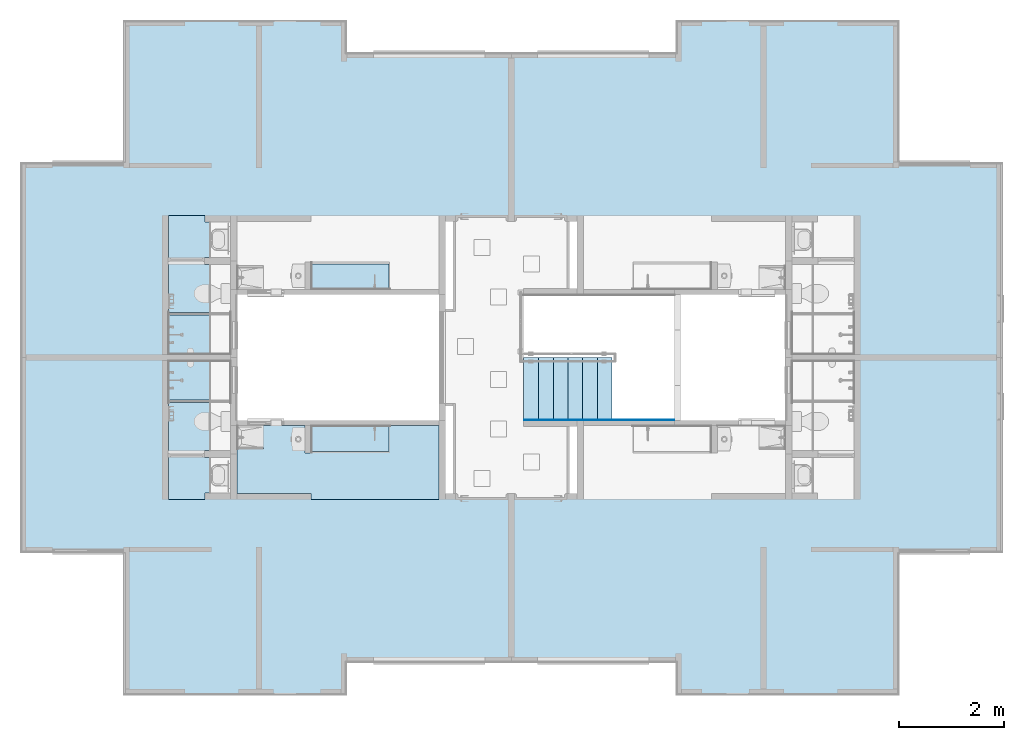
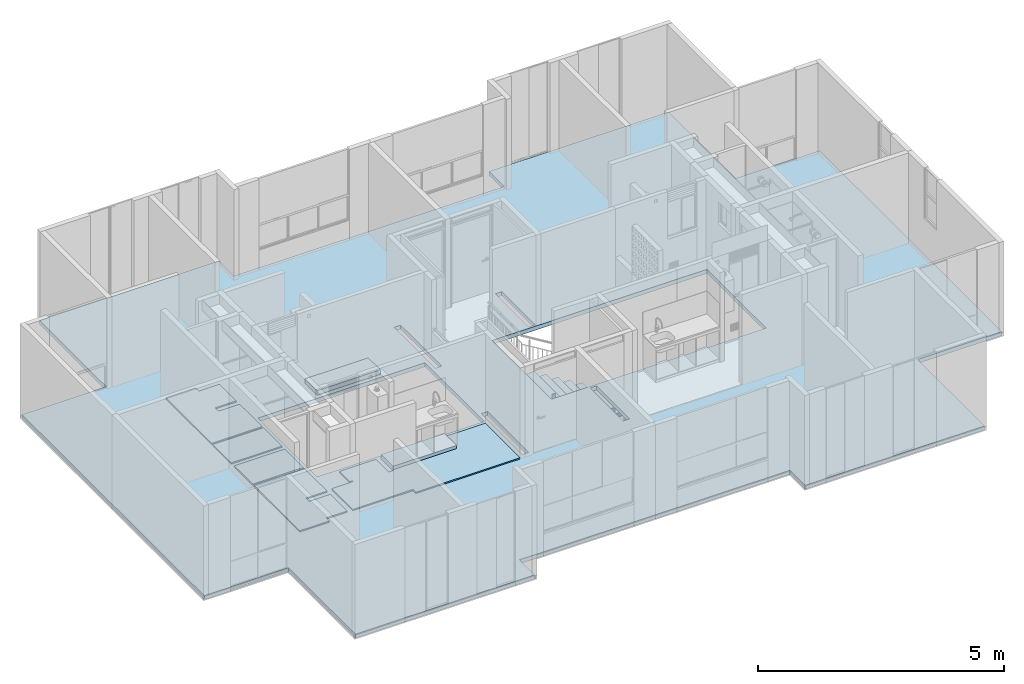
# One storey, part 1 of 47: 13 slabs.
"""IFC4 building model written with IfcOpenShell, lengths in metres."""

import ifcopenshell
import ifcopenshell.guid

model = None  # the IFC model being written
_history = None  # IfcOwnerHistory: only IFC2X3 demands one
_inside = {}  # id of a spatial element -> (the spatial element, [elements in it])
_under = {}  # id of a project, library or spatial element -> (it, [spatial elements below it])
_declared = {}  # id of a project -> (the project, [libraries it declares])
_typed = {}  # id of a type object -> (the type object, [elements of that type])
_made_of = {}  # id of a material, layer set ... -> (it, [elements and type objects made of it])


def new_model(schema):
    """Start an empty IFC model of exactly this schema.

    Asked for "IFC4X3", IfcOpenShell would pick the latest addendum, in which some entities
    have other attributes; the version numbers below select the first issue.
    IFC2X3 requires an IfcOwnerHistory on every rooted entity: one is made here for all.
    """
    global model, _history
    if schema == "IFC4X3":
        model = ifcopenshell.file(schema_version=(4, 3, 0, 0))
    else:
        model = ifcopenshell.file(schema=schema)
    _inside.clear()
    _under.clear()
    _declared.clear()
    _typed.clear()
    _made_of.clear()
    _history = None
    if model.schema == "IFC2X3":
        org = make("IfcOrganization", Name="unknown")
        user = make(
            "IfcPersonAndOrganization",
            ThePerson=make("IfcPerson", FamilyName="unknown"),
            TheOrganization=org,
        )
        app = make(
            "IfcApplication",
            ApplicationDeveloper=org,
            Version="unknown",
            ApplicationFullName="unknown",
            ApplicationIdentifier="unknown",
        )
        _history = make(
            "IfcOwnerHistory",
            OwningUser=user,
            OwningApplication=app,
            ChangeAction="ADDED",
            CreationDate=0,
        )
    return model


def make(cls, **values):
    """One entity of the class cls with the attributes given. An attribute that is None is left unset."""
    return model.create_entity(
        cls, **{name: value for name, value in values.items() if value is not None}
    )


def entity(cls, *values):
    """Any entity or typed value of the class cls, its attributes in the order of the schema. None: left unset."""
    e = model.create_entity(cls)
    for i, value in enumerate(values):
        if value is not None:
            e[i] = value
    return e


def rooted(cls, **values):
    """An entity with a GlobalId (a new one), such as an element, a storey or a relation."""
    return make(cls, GlobalId=ifcopenshell.guid.new(), OwnerHistory=_history, **values)


def si_unit(unit_type, name, prefix=None):
    """IfcSIUnit, for example si_unit("LENGTHUNIT", "METRE", prefix="MILLI")."""
    return make("IfcSIUnit", UnitType=unit_type, Prefix=prefix, Name=name)


def converted_unit(unit_type, name, factor, base, dimensions=None, offset=None):
    """IfcConversionBasedUnit, such as the inch: factor (a typed value) times the base unit."""
    return make(
        "IfcConversionBasedUnit"
        if offset is None
        else "IfcConversionBasedUnitWithOffset",
        ConversionOffset=offset,
        Dimensions=None
        if dimensions is None
        else entity("IfcDimensionalExponents", *dimensions),
        UnitType=unit_type,
        Name=name,
        ConversionFactor=make(
            "IfcMeasureWithUnit", ValueComponent=factor, UnitComponent=base
        ),
    )


def derived_unit(unit_type, elements):
    """IfcDerivedUnit: a product of units, each with its exponent."""
    return make(
        "IfcDerivedUnit",
        Elements=[
            make("IfcDerivedUnitElement", Unit=unit, Exponent=power)
            for unit, power in elements
        ],
        UnitType=unit_type,
    )


def assignment(units):
    """IfcUnitAssignment: the units of a project."""
    return None if units is None else make("IfcUnitAssignment", Units=units)


def point(xyz):
    """IfcCartesianPoint."""
    return None if xyz is None else make("IfcCartesianPoint", Coordinates=xyz)


def direction(xyz):
    """IfcDirection."""
    return None if xyz is None else make("IfcDirection", DirectionRatios=xyz)


def frame(location, z_axis=None, x_axis=None):
    """IfcAxis2Placement3D, a coordinate frame: its origin and axes. An axis left out is left unset."""
    return make(
        "IfcAxis2Placement3D",
        Location=point(location),
        Axis=direction(z_axis),
        RefDirection=direction(x_axis),
    )


def origin():
    """The frame at (0, 0, 0) with its axes left unset."""
    return frame((0.0, 0.0, 0.0))


def place(relative_to, where):
    """IfcLocalPlacement: puts the frame where relative to a parent placement (None: the world)."""
    return make(
        "IfcLocalPlacement", PlacementRelTo=relative_to, RelativePlacement=where
    )


def context(
    kind, dimensions, precision=None, world=None, true_north=None, identifier=None
):
    """IfcGeometricRepresentationContext, for example the 3D "Model" context."""
    return make(
        "IfcGeometricRepresentationContext",
        ContextIdentifier=identifier,
        ContextType=kind,
        CoordinateSpaceDimension=dimensions,
        Precision=precision,
        WorldCoordinateSystem=world,
        TrueNorth=true_north,
    )


def subcontext(parent, identifier, kind, view, scale=None):
    """IfcGeometricRepresentationSubContext, for example "Body" below "Model"."""
    return make(
        "IfcGeometricRepresentationSubContext",
        ContextIdentifier=identifier,
        ContextType=kind,
        ParentContext=parent,
        TargetScale=scale,
        TargetView=view,
    )


def project(units=None, contexts=None):
    """IfcProject with its units and contexts."""
    return rooted(
        "IfcProject",
        Name="project",
        RepresentationContexts=contexts,
        UnitsInContext=assignment(units),
    )


def spatial(cls, under=None, at=None, **own):
    """A site, building, storey or space (cls), placed at a placement, below another one or the project."""
    s = rooted(cls, ObjectPlacement=at, **own)
    if under is not None:
        _under.setdefault(under.id(), (under, []))[1].append(s)
    return s


def point_list(points):
    """IfcCartesianPointList2D or 3D."""
    cls = (
        "IfcCartesianPointList2D" if len(points[0]) == 2 else "IfcCartesianPointList3D"
    )
    return make(cls, CoordList=points)


def indexed_curve(points, segments=None, self_intersect=None):
    """IfcIndexedPolyCurve: lines and arcs through numbered points (the first is 1)."""
    return make(
        "IfcIndexedPolyCurve",
        Points=point_list(points),
        Segments=segments,
        SelfIntersect=self_intersect,
    )


def outline(outer, holes=None, kind="AREA"):
    """IfcArbitraryClosedProfileDef: a profile drawn as a closed curve; with holes, ...WithVoids."""
    if holes is None:
        return make("IfcArbitraryClosedProfileDef", ProfileType=kind, OuterCurve=outer)
    return make(
        "IfcArbitraryProfileDefWithVoids",
        ProfileType=kind,
        OuterCurve=outer,
        InnerCurves=holes,
    )


def extrude(swept, where, along, depth):
    """IfcExtrudedAreaSolid: the profile swept, set in the frame where, extruded along a direction by depth."""
    return make(
        "IfcExtrudedAreaSolid",
        SweptArea=swept,
        Position=where,
        ExtrudedDirection=direction(along),
        Depth=depth,
    )


def shape(context_of_items, identifier, shape_type, items):
    """IfcShapeRepresentation: the items that make up one representation, for example the "Body"."""
    return make(
        "IfcShapeRepresentation",
        ContextOfItems=context_of_items,
        RepresentationIdentifier=identifier,
        RepresentationType=shape_type,
        Items=items,
    )


def material(Name=None, Category=None):
    """IfcMaterial."""
    return make("IfcMaterial", Name=Name, Category=Category)


def constituent(of_material, Name=None, Category=None, fraction=None):
    """IfcMaterialConstituent: one of the materials an element consists of."""
    return make(
        "IfcMaterialConstituent",
        Name=Name,
        Material=of_material,
        Fraction=fraction,
        Category=Category,
    )


def constituent_set(constituents=None, Name=None):
    """IfcMaterialConstituentSet."""
    return make(
        "IfcMaterialConstituentSet", Name=Name, MaterialConstituents=constituents
    )


def made_of(thing, what):
    """Note that an element or type object is made of a material, layer set ...; save() writes the relation."""
    if what is not None:
        _made_of.setdefault(what.id(), (what, []))[1].append(thing)
    return thing


def type_object(cls, material=None, **own):
    """A type object (cls), such as IfcWallType, which elements share."""
    return made_of(rooted(cls, **own), material)


def element(
    cls,
    number,
    at=None,
    inside=None,
    cuts=None,
    type_object=None,
    material=None,
    context=None,
    identifier="Body",
    shape_type=None,
    held_by="IfcProductDefinitionShape",
    body=None,
    shapes=None,
    **own,
):
    """One element of the class cls, such as IfcWall. Its Tag is "e" and its number.

    at: its placement. inside: the storey or other place that contains it. cuts: it is an
    opening in that element (IfcRelVoidsElement). A single representation is given by context,
    identifier, shape_type and body (its items); several are given by shapes. held_by: the class
    of the entity that holds the representations. save() writes the other relations.
    """
    e = rooted(cls, Tag="e%d" % number, ObjectPlacement=at, **own)
    if body is not None:
        shapes = [shape(context, identifier, shape_type, body)]
    if shapes is not None:
        e.Representation = make(held_by, Representations=shapes)
    if inside is not None:
        _inside.setdefault(inside.id(), (inside, []))[1].append(e)
    if cuts is not None:
        rooted(
            "IfcRelVoidsElement", RelatingBuildingElement=cuts, RelatedOpeningElement=e
        )
    if type_object is not None:
        _typed.setdefault(type_object.id(), (type_object, []))[1].append(e)
    return made_of(e, material)


def aggregate(whole, parts):
    """IfcRelAggregates: a whole, such as a stair, and the parts it consists of."""
    return rooted("IfcRelAggregates", RelatingObject=whole, RelatedObjects=parts)


def save(model, path):
    """Write the relations noted so far, then the file.

    IfcRelAggregates (storeys below a building ...), IfcRelContainedInSpatialStructure (elements
    in a storey), IfcRelDefinesByType, IfcRelAssociatesMaterial and IfcRelDeclares: one each for
    every whole, place, type object, material and project.
    """
    for whole, parts in _under.values():
        aggregate(whole, parts)
    for where, things in _inside.values():
        rooted(
            "IfcRelContainedInSpatialStructure",
            RelatedElements=things,
            RelatingStructure=where,
        )
    for kind, things in _typed.values():
        rooted("IfcRelDefinesByType", RelatedObjects=things, RelatingType=kind)
    for what, things in _made_of.values():
        rooted("IfcRelAssociatesMaterial", RelatedObjects=things, RelatingMaterial=what)
    for by, libraries in _declared.values():
        rooted("IfcRelDeclares", RelatingContext=by, RelatedDefinitions=libraries)
    model.write(path)


model = new_model("IFC4")

# Units and contexts
model_context = context("Model", 3, precision=1e-05, world=origin(), true_north=direction((6.123031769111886e-17, 1.0)))
body_context = subcontext(model_context, "Body", "Model", "MODEL_VIEW")
ifc_project = project(units=[si_unit("LENGTHUNIT", "METRE"), si_unit("AREAUNIT", "SQUARE_METRE"), si_unit("VOLUMEUNIT", "CUBIC_METRE"), converted_unit("PLANEANGLEUNIT", "DEGREE", entity("IfcRatioMeasure", 0.017453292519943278), si_unit("PLANEANGLEUNIT", "RADIAN"), dimensions=[0, 0, 0, 0, 0, 0, 0]), si_unit("MASSUNIT", "GRAM", prefix="KILO"), derived_unit("MASSDENSITYUNIT", [(si_unit("MASSUNIT", "GRAM", prefix="KILO"), 1), (si_unit("LENGTHUNIT", "METRE"), -3)]), derived_unit("IONCONCENTRATIONUNIT", [(si_unit("MASSUNIT", "GRAM", prefix="KILO"), 1), (si_unit("LENGTHUNIT", "METRE"), -3)]), derived_unit("MOMENTOFINERTIAUNIT", [(si_unit("LENGTHUNIT", "METRE"), 4)]), si_unit("TIMEUNIT", "SECOND"), si_unit("FREQUENCYUNIT", "HERTZ"), si_unit("THERMODYNAMICTEMPERATUREUNIT", "DEGREE_CELSIUS"), derived_unit("THERMALTRANSMITTANCEUNIT", [(si_unit("MASSUNIT", "GRAM", prefix="KILO"), 1), (si_unit("THERMODYNAMICTEMPERATUREUNIT", "KELVIN"), -1), (si_unit("TIMEUNIT", "SECOND"), -3)]), derived_unit("THERMALCONDUCTANCEUNIT", [(si_unit("MASSUNIT", "GRAM", prefix="KILO"), 1), (si_unit("THERMODYNAMICTEMPERATUREUNIT", "KELVIN"), -1), (si_unit("TIMEUNIT", "SECOND"), -3), (si_unit("LENGTHUNIT", "METRE"), 1)]), derived_unit("VOLUMETRICFLOWRATEUNIT", [(si_unit("LENGTHUNIT", "METRE"), 3), (si_unit("TIMEUNIT", "SECOND"), -1)]), derived_unit("MASSFLOWRATEUNIT", [(si_unit("MASSUNIT", "GRAM", prefix="KILO"), 1), (si_unit("TIMEUNIT", "SECOND"), -1)]), derived_unit("ROTATIONALFREQUENCYUNIT", [(si_unit("TIMEUNIT", "SECOND"), -1)]), si_unit("ELECTRICCURRENTUNIT", "AMPERE"), si_unit("ELECTRICVOLTAGEUNIT", "VOLT"), si_unit("POWERUNIT", "WATT"), si_unit("FORCEUNIT", "NEWTON", prefix="KILO"), si_unit("ILLUMINANCEUNIT", "LUX"), si_unit("LUMINOUSFLUXUNIT", "LUMEN"), si_unit("LUMINOUSINTENSITYUNIT", "CANDELA"), derived_unit("USERDEFINED", [(si_unit("MASSUNIT", "GRAM", prefix="KILO"), -1), (si_unit("LENGTHUNIT", "METRE"), -2), (si_unit("TIMEUNIT", "SECOND"), 3), (si_unit("LUMINOUSFLUXUNIT", "LUMEN"), 1)]), derived_unit("USERDEFINED", [(si_unit("MASSUNIT", "GRAM", prefix="KILO"), 1), (si_unit("TIMEUNIT", "SECOND"), -3), (si_unit("LENGTHUNIT", "METRE"), 3), (si_unit("ELECTRICCURRENTUNIT", "AMPERE"), -2)]), derived_unit("SOUNDPOWERUNIT", [(si_unit("MASSUNIT", "GRAM", prefix="KILO"), 1), (si_unit("TIMEUNIT", "SECOND"), -3), (si_unit("LENGTHUNIT", "METRE"), 2)]), derived_unit("SOUNDPRESSUREUNIT", [(si_unit("MASSUNIT", "GRAM", prefix="KILO"), 1), (si_unit("LENGTHUNIT", "METRE"), -1), (si_unit("TIMEUNIT", "SECOND"), -2)]), derived_unit("LINEARVELOCITYUNIT", [(si_unit("LENGTHUNIT", "METRE"), 1), (si_unit("TIMEUNIT", "SECOND"), -1)]), si_unit("PRESSUREUNIT", "PASCAL"), derived_unit("USERDEFINED", [(si_unit("MASSUNIT", "GRAM", prefix="KILO"), 1), (si_unit("LENGTHUNIT", "METRE"), -2), (si_unit("TIMEUNIT", "SECOND"), -2)]), derived_unit("LINEARFORCEUNIT", [(si_unit("MASSUNIT", "GRAM", prefix="KILO"), 1), (si_unit("TIMEUNIT", "SECOND"), -2)]), derived_unit("PLANARFORCEUNIT", [(si_unit("MASSUNIT", "GRAM", prefix="KILO"), 1), (si_unit("LENGTHUNIT", "METRE"), -1), (si_unit("TIMEUNIT", "SECOND"), -2)]), derived_unit("SPECIFICHEATCAPACITYUNIT", [(si_unit("THERMODYNAMICTEMPERATUREUNIT", "KELVIN"), -1), (si_unit("LENGTHUNIT", "METRE"), 2), (si_unit("TIMEUNIT", "SECOND"), -2)]), derived_unit("HEATINGVALUEUNIT", [(si_unit("LENGTHUNIT", "METRE"), 2), (si_unit("TIMEUNIT", "SECOND"), -2)]), derived_unit("VAPORPERMEABILITYUNIT", [(si_unit("LENGTHUNIT", "METRE"), -1), (si_unit("TIMEUNIT", "SECOND"), 1)]), derived_unit("DYNAMICVISCOSITYUNIT", [(si_unit("MASSUNIT", "GRAM", prefix="KILO"), 1), (si_unit("TIMEUNIT", "SECOND"), -1), (si_unit("LENGTHUNIT", "METRE"), -1)]), derived_unit("THERMALEXPANSIONCOEFFICIENTUNIT", [(si_unit("THERMODYNAMICTEMPERATUREUNIT", "KELVIN"), -1)]), derived_unit("MODULUSOFELASTICITYUNIT", [(si_unit("MASSUNIT", "GRAM", prefix="KILO"), 1), (si_unit("LENGTHUNIT", "METRE"), -1), (si_unit("TIMEUNIT", "SECOND"), -2)]), derived_unit("ISOTHERMALMOISTURECAPACITYUNIT", [(si_unit("LENGTHUNIT", "METRE"), 3), (si_unit("MASSUNIT", "GRAM", prefix="KILO"), -1)]), derived_unit("MOISTUREDIFFUSIVITYUNIT", [(si_unit("TIMEUNIT", "SECOND"), -1), (si_unit("LENGTHUNIT", "METRE"), 2)])], contexts=[model_context])

# Site, building, storey
site_placement = place(None, origin())
site = spatial("IfcSite", under=ifc_project, at=site_placement, Name="Default", CompositionType="ELEMENT")
building_placement = place(site_placement, origin())
building = spatial("IfcBuilding", under=site, at=building_placement, CompositionType="ELEMENT")
storey_placement = place(building_placement, frame((0.0, 0.0, 11.750000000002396)))
storey = spatial("IfcBuildingStorey", under=building, at=storey_placement, Name="Nivel 6", CompositionType="ELEMENT", Elevation=11.750000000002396)

# Slabs
ifc_material_1 = material(Name="Ceramica 0.45m x 0.45m gris", Category="Materials")
ifc_constituent_1 = constituent(ifc_material_1, Name="Ceramica 0.45m x 0.45m gris", Category="Materials")
ifc_material_2 = material(Name="Mortero de pega", Category="Materials")
ifc_constituent_2 = constituent(ifc_material_2, Name="Mortero de pega", Category="Materials")
ifc_constituent_set_1 = constituent_set(constituents=[ifc_constituent_1, ifc_constituent_2], Name="Floor:C2030.20 - 0.45 x 0.45 - Enchape cerámico - Mortero de Pega + Cerámica gris")
slab_type_1 = type_object("IfcSlabType", Name="Floor:C2030.20 - 0.45 x 0.45 - Enchape cerámico - Mortero de Pega + Cerámica gris", PredefinedType="FLOOR", material=ifc_constituent_set_1)
slab_1_placement = place(storey_placement, origin())
element("IfcSlab", 1, at=slab_1_placement, inside=storey, type_object=slab_type_1, material=ifc_constituent_set_1, Name="Floor:C2030.20 - 0.45 x 0.45 - Enchape cerámico - Mortero de Pega + Cerámica gris", ObjectType="Floor:C2030.20 - 0.45 x 0.45 - Enchape cerámico - Mortero de Pega + Cerámica gris", PredefinedType="FLOOR", context=body_context, shape_type="SweptSolid", body=[
    extrude(outline(indexed_curve([(-0.592499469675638, -0.3749999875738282), (0.5924994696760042, -0.3749999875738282), (0.5924994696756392, 0.3749999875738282), (-0.5924994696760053, 0.3749999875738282), (-0.592499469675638, -0.3749999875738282)], self_intersect=False)), frame((3.3700005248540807, -5.990000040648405, 0.019999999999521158), z_axis=(0.0, 0.0, 1.0), x_axis=(-1.0, 0.0, 0.0)), (0.0, 0.0, 1.0), 0.009999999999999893),
    extrude(outline(indexed_curve([(-0.1950000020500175, -0.06099936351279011), (-0.19500000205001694, 0.4339995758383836), (-1.109999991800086, 0.43399957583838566), (-1.109999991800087, -0.7509993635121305), (0.7449999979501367, -0.750999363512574), (0.7449999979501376, -0.05600042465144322), (0.6199999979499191, -0.05600042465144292), (0.619999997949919, 0.4339995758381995), (-0.060000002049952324, 0.4339995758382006), (-0.060000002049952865, -0.06099936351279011), (-0.1950000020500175, -0.06099936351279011)], self_intersect=False)), frame((3.5285004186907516, -4.455000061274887, 0.019999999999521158), z_axis=(0.0, 0.0, -1.0), x_axis=(0.0, 1.0, 0.0)), (0.0, 0.0, -1.0), 0.009999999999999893),
    extrude(outline(indexed_curve([(-0.7509993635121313, -1.1099999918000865), (0.4339995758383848, -1.1099999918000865), (0.4339995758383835, -0.19500000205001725), (-0.06099936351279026, -0.1950000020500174), (-0.06099936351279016, -0.06000000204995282), (0.4339995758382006, -0.06000000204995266), (0.4339995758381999, 0.6199999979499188), (-0.05600042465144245, 0.6199999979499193), (-0.05600042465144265, 0.7449999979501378), (-0.750999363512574, 0.7449999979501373), (-0.7509993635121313, -1.1099999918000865)], self_intersect=False)), frame((3.5285004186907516, -4.455000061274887, 0.0)), (0.0, 0.0, 1.0), 0.019999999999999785),
    extrude(outline(indexed_curve([(-0.37499998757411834, -0.5924994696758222), (0.37499998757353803, -0.5924994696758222), (0.37499998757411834, 0.59249946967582), (-0.37499998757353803, 0.5924994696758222), (-0.37499998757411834, -0.5924994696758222)], self_intersect=False)), frame((3.37000052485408, -5.990000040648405, 0.0), z_axis=(0.0, 0.0, 1.0), x_axis=(0.0, 1.0, 0.0)), (0.0, 0.0, 1.0), 0.019999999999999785),
])
slab_2_placement = place(storey_placement, origin())
element("IfcSlab", 2, at=slab_2_placement, inside=storey, type_object=slab_type_1, material=ifc_constituent_set_1, Name="Floor:C2030.20 - 0.45 x 0.45 - Enchape cerámico - Mortero de Pega + Cerámica gris", ObjectType="Floor:C2030.20 - 0.45 x 0.45 - Enchape cerámico - Mortero de Pega + Cerámica gris", PredefinedType="FLOOR", context=body_context, shape_type="SweptSolid", body=[
    extrude(outline(indexed_curve([(-0.5924994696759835, -0.3749999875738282), (0.5924994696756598, -0.3749999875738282), (0.592499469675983, 0.3749999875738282), (-0.5924994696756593, 0.3749999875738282), (-0.5924994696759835, -0.3749999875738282)], self_intersect=False)), frame((3.3700005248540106, -6.860000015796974, 0.019999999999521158), z_axis=(0.0, 0.0, 1.0), x_axis=(-1.0, 0.0, 0.0)), (0.0, 0.0, 1.0), 0.009999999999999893),
    extrude(outline(indexed_curve([(0.19500000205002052, -0.4339995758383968), (1.1099999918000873, -0.4339995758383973), (1.109999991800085, 0.7509993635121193), (-0.7449999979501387, 0.750999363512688), (-0.7449999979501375, 0.05600042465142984), (-0.619999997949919, 0.05600042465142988), (-0.6199999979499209, -0.43399957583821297), (0.0600000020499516, -0.4339995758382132), (0.060000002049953, 0.060999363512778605), (0.19500000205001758, 0.06099936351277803), (0.19500000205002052, -0.4339995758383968)], self_intersect=False)), frame((3.528500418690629, -8.394999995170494, 0.019999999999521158), z_axis=(0.0, 0.0, 1.0), x_axis=(0.0, 1.0, 0.0)), (0.0, 0.0, 1.0), 0.009999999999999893),
    extrude(outline(indexed_curve([(-1.1099999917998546, -0.7509993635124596), (0.744999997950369, -0.7509993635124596), (0.7449999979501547, -0.05600042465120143), (0.6199999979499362, -0.056000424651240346), (0.6199999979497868, 0.4339995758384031), (-0.060000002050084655, 0.4339995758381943), (-0.06000000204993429, -0.06099936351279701), (-0.19500000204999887, -0.060999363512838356), (-0.19500000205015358, 0.43399957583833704), (-1.1099999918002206, 0.43399957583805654), (-1.1099999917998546, -0.7509993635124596)], self_intersect=False)), frame((3.528500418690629, -8.394999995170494, 0.0), z_axis=(0.0, 0.0, 1.0), x_axis=(0.0, -1.0, 0.0)), (0.0, 0.0, 1.0), 0.019999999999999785),
    extrude(outline(indexed_curve([(-0.5924994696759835, -0.3749999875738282), (0.5924994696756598, -0.3749999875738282), (0.5924994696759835, 0.3749999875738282), (-0.5924994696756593, 0.3749999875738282), (-0.5924994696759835, -0.3749999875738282)], self_intersect=False)), frame((3.3700005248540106, -6.860000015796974, 0.0), z_axis=(0.0, 0.0, 1.0), x_axis=(-1.0, 0.0, 0.0)), (0.0, 0.0, 1.0), 0.019999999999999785),
])
slab_3_placement = place(storey_placement, origin())
element("IfcSlab", 3, at=slab_3_placement, inside=storey, type_object=slab_type_1, material=ifc_constituent_set_1, Name="Floor:C2030.20 - 0.45 x 0.45 - Enchape cerámico - Mortero de Pega + Cerámica gris", ObjectType="Floor:C2030.20 - 0.45 x 0.45 - Enchape cerámico - Mortero de Pega + Cerámica gris", PredefinedType="FLOOR", context=body_context, shape_type="SweptSolid", body=[
    extrude(outline(indexed_curve([(-0.06375012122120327, -0.8409999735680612), (2.381249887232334, -0.8409999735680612), (2.3812498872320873, 0.5734999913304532), (1.4212498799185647, 0.5734999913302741), (1.4212498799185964, 0.083999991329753), (-0.06375012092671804, 0.08399999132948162), (-0.06375012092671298, 0.05399999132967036), (-0.17875012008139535, 0.053999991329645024), (-0.1787501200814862, 0.573499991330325), (-1.038749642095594, 0.5734999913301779), (-1.0387496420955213, 0.1579999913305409), (-0.9787496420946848, 0.15799999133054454), (-0.9787496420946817, 0.12399999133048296), (-1.4787501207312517, 0.12399999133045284), (-1.4787501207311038, -0.7259999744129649), (-0.06375012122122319, -0.725999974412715), (-0.06375012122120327, -0.8409999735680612)], self_intersect=False)), frame((5.566250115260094, -8.299000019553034, 0.019999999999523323)), (0.0, 0.0, 1.0), 0.009999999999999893),
    extrude(outline(indexed_curve([(-0.06375012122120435, -0.8409999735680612), (2.381249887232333, -0.8409999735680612), (2.3812498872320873, 0.5734999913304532), (1.4212498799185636, 0.5734999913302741), (1.4212498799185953, 0.083999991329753), (-0.06375012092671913, 0.08399999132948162), (-0.06375012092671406, 0.05399999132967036), (-0.17875012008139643, 0.053999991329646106), (-0.17875012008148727, 0.573499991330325), (-1.038749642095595, 0.5734999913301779), (-1.038749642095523, 0.1579999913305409), (-0.978749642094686, 0.15799999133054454), (-0.9787496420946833, 0.12399999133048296), (-1.4787501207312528, 0.12399999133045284), (-1.478750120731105, -0.7259999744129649), (-0.06375012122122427, -0.725999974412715), (-0.06375012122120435, -0.8409999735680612)], self_intersect=False)), frame((5.566250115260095, -8.299000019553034, 0.0)), (0.0, 0.0, 1.0), 0.019999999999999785),
])
ifc_material_3 = material(Name="Concreto (Aire)", Category="Materials")
slab_type_2 = type_object("IfcSlabType", Name="Floor:B1010 - 0.10m - Placa Entrepiso - Concreto", PredefinedType="FLOOR", material=ifc_material_3)
slab_4_placement = place(storey_placement, origin())
element("IfcSlab", 4, at=slab_4_placement, inside=storey, type_object=slab_type_2, material=ifc_material_3, Name="Floor:B1010 - 0.10m - Placa Entrepiso - Concreto", ObjectType="Floor:B1010 - 0.10m - Placa Entrepiso - Concreto", PredefinedType="FLOOR", context=body_context, shape_type="SweptSolid", body=[
    extrude(outline(indexed_curve([(-7.375000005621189, -6.415000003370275), (-3.170000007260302, -6.415000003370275), (-3.170000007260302, -5.8000000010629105), (3.1700000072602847, -5.8000000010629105), (3.1700000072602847, -6.415000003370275), (7.3750000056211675, -6.415000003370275), (7.3750000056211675, -3.6999999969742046), (9.350000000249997, -3.699999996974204), (9.350000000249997, 3.6999999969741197), (7.375000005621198, 3.6999999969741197), (7.375000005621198, 6.415000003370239), (3.1700000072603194, 6.415000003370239), (3.1700000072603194, 5.800000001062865), (-3.170000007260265, 5.800000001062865), (-3.170000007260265, 6.415000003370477), (-7.375000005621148, 6.415000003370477), (-7.375000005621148, 3.6999999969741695), (-9.350000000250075, 3.6999999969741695), (-9.350000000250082, -3.6999999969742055), (-7.375000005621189, -3.6999999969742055), (-7.375000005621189, -6.415000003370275)], self_intersect=False), holes=[indexed_curve([(-5.2650000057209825, -1.2000000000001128), (-5.2650000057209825, 1.199999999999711), (-3.1555462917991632, 1.199999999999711), (-0.23000000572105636, 1.1999999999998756), (-0.23000000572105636, -1.2000000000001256), (-3.308647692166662, -1.2000000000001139), (-5.2650000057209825, -1.2000000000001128)], self_intersect=False), indexed_curve([(5.265000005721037, -1.2000000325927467), (1.3449999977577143, -1.2000000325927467), (1.3449999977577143, 1.2000000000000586), (5.265000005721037, 1.2000000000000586), (5.265000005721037, -1.2000000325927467)], self_intersect=False), indexed_curve([(-1.2599999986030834, -2.5999999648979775), (-1.2599999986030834, -1.250000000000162), (-1.1099999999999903, -1.250000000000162), (-1.1099999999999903, -2.5999999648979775), (-1.2599999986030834, -2.5999999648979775)], self_intersect=False), indexed_curve([(-1.2599999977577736, 1.2500000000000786), (-1.2599999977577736, 2.599999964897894), (-1.1099999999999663, 2.599999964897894), (-1.1099999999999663, 1.2500000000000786), (-1.2599999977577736, 1.2500000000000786)], self_intersect=False), indexed_curve([(1.2599999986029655, 0.9299999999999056), (1.1100000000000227, 0.9299999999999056), (1.1100000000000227, 2.5999999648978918), (1.2599999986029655, 2.5999999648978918), (1.2599999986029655, 0.9299999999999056)], self_intersect=False), indexed_curve([(1.110000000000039, -2.5999999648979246), (1.110000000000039, -0.9299999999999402), (1.2599999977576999, -0.9299999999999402), (1.2599999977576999, -2.5999999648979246), (1.110000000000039, -2.5999999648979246)], self_intersect=False)]), frame((9.322500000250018, -6.425000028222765, -0.09999999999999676), z_axis=(0.0, 0.0, 1.0), x_axis=(-1.0, 0.0, 0.0)), (0.0, 0.0, 1.0), 0.09999999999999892),
])
ifc_material_4 = material(Name="escalgres", Category="Materials")
ifc_constituent_3 = constituent(ifc_material_4, Name="escalgres", Category="Materials")
ifc_constituent_4 = constituent(ifc_material_2, Name="Mortero de pega", Category="Materials")
ifc_constituent_set_2 = constituent_set(constituents=[ifc_constituent_3, ifc_constituent_4], Name="Floor:C2030.20 -30x30- Escalgres - Gres")
slab_type_3 = type_object("IfcSlabType", Name="Floor:C2030.20 -30x30- Escalgres - Gres", PredefinedType="FLOOR", material=ifc_constituent_set_2)
slab_5_placement = place(storey_placement, origin())
element("IfcSlab", 5, at=slab_5_placement, inside=storey, type_object=slab_type_3, material=ifc_constituent_set_2, Name="Floor:C2030.20 -30x30- Escalgres - Gres", ObjectType="Floor:C2030.20 -30x30- Escalgres - Gres", PredefinedType="FLOOR", context=body_context, shape_type="SweptSolid", body=[
    extrude(outline(indexed_curve([(-0.1475000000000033, -0.6000000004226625), (0.14750000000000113, -0.6000000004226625), (0.14750000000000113, 0.6000000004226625), (-0.1475000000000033, 0.6000000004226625), (-0.1475000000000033, -0.6000000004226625)], self_intersect=False)), frame((11.10000000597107, -7.025000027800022, -0.9871428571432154)), (0.0, 0.0, 1.0), 0.009999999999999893),
    extrude(outline(indexed_curve([(-0.6000000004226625, -0.1475000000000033), (0.6000000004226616, -0.1475000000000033), (0.6000000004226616, 0.14750000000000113), (-0.6000000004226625, 0.14750000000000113), (-0.6000000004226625, -0.1475000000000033)], self_intersect=False)), frame((11.10000000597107, -7.025000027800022, -1.007142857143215), z_axis=(0.0, 0.0, 1.0), x_axis=(0.0, -1.0, 0.0)), (0.0, 0.0, 1.0), 0.019999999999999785),
])
slab_6_placement = place(storey_placement, origin())
element("IfcSlab", 6, at=slab_6_placement, inside=storey, type_object=slab_type_3, material=ifc_constituent_set_2, Name="Floor:C2030.20 -30x30- Escalgres - Gres", ObjectType="Floor:C2030.20 -30x30- Escalgres - Gres", PredefinedType="FLOOR", context=body_context, shape_type="SweptSolid", body=[
    extrude(outline(indexed_curve([(-0.1475000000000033, -0.6000000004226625), (0.14750000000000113, -0.6000000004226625), (0.14750000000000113, 0.6000000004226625), (-0.1475000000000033, 0.6000000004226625), (-0.1475000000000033, -0.6000000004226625)], self_intersect=False)), frame((10.820000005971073, -7.025000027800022, -0.8192857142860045)), (0.0, 0.0, 1.0), 0.009999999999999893),
    extrude(outline(indexed_curve([(-0.6000000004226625, -0.1475000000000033), (0.6000000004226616, -0.1475000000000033), (0.6000000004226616, 0.14750000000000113), (-0.6000000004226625, 0.14750000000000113), (-0.6000000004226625, -0.1475000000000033)], self_intersect=False)), frame((10.820000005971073, -7.025000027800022, -0.8392857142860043), z_axis=(0.0, 0.0, 1.0), x_axis=(0.0, -1.0, 0.0)), (0.0, 0.0, 1.0), 0.019999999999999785),
])
slab_7_placement = place(storey_placement, origin())
element("IfcSlab", 7, at=slab_7_placement, inside=storey, type_object=slab_type_3, material=ifc_constituent_set_2, Name="Floor:C2030.20 -30x30- Escalgres - Gres", ObjectType="Floor:C2030.20 -30x30- Escalgres - Gres", PredefinedType="FLOOR", context=body_context, shape_type="SweptSolid", body=[
    extrude(outline(indexed_curve([(-0.1475000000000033, -0.6000000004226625), (0.14750000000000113, -0.6000000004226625), (0.14750000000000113, 0.6000000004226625), (-0.1475000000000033, 0.6000000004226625), (-0.1475000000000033, -0.6000000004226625)], self_intersect=False)), frame((10.540000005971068, -7.025000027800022, -0.6514285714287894)), (0.0, 0.0, 1.0), 0.009999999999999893),
    extrude(outline(indexed_curve([(-0.6000000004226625, -0.1475000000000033), (0.6000000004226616, -0.1475000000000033), (0.6000000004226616, 0.14750000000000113), (-0.6000000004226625, 0.14750000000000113), (-0.6000000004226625, -0.1475000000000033)], self_intersect=False)), frame((10.540000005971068, -7.025000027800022, -0.6714285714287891), z_axis=(0.0, 0.0, 1.0), x_axis=(0.0, -1.0, 0.0)), (0.0, 0.0, 1.0), 0.019999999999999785),
])
slab_8_placement = place(storey_placement, origin())
element("IfcSlab", 8, at=slab_8_placement, inside=storey, type_object=slab_type_3, material=ifc_constituent_set_2, Name="Floor:C2030.20 -30x30- Escalgres - Gres", ObjectType="Floor:C2030.20 -30x30- Escalgres - Gres", PredefinedType="FLOOR", context=body_context, shape_type="SweptSolid", body=[
    extrude(outline(indexed_curve([(-0.1475000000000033, -0.6000000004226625), (0.14750000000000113, -0.6000000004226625), (0.14750000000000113, 0.6000000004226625), (-0.1475000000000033, 0.6000000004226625), (-0.1475000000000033, -0.6000000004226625)], self_intersect=False)), frame((10.26000000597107, -7.025000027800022, -0.48357142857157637)), (0.0, 0.0, 1.0), 0.009999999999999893),
    extrude(outline(indexed_curve([(-0.6000000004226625, -0.1475000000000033), (0.6000000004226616, -0.1475000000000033), (0.6000000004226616, 0.14750000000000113), (-0.6000000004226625, 0.14750000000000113), (-0.6000000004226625, -0.1475000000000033)], self_intersect=False)), frame((10.26000000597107, -7.025000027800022, -0.5035714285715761), z_axis=(0.0, 0.0, 1.0), x_axis=(0.0, -1.0, 0.0)), (0.0, 0.0, 1.0), 0.019999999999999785),
])
slab_9_placement = place(storey_placement, origin())
element("IfcSlab", 9, at=slab_9_placement, inside=storey, type_object=slab_type_3, material=ifc_constituent_set_2, Name="Floor:C2030.20 -30x30- Escalgres - Gres", ObjectType="Floor:C2030.20 -30x30- Escalgres - Gres", PredefinedType="FLOOR", context=body_context, shape_type="SweptSolid", body=[
    extrude(outline(indexed_curve([(-0.1475000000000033, -0.6000000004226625), (0.14750000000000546, -0.6000000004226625), (0.14750000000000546, 0.6000000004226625), (-0.1475000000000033, 0.6000000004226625), (-0.1475000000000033, -0.6000000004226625)], self_intersect=False)), frame((9.98000000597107, -7.025000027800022, -0.3157142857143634)), (0.0, 0.0, 1.0), 0.009999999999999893),
    extrude(outline(indexed_curve([(-0.6000000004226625, -0.1475000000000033), (0.6000000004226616, -0.1475000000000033), (0.6000000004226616, 0.14750000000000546), (-0.6000000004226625, 0.14750000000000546), (-0.6000000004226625, -0.1475000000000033)], self_intersect=False)), frame((9.98000000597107, -7.025000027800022, -0.3357142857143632), z_axis=(0.0, 0.0, 1.0), x_axis=(0.0, -1.0, 0.0)), (0.0, 0.0, 1.0), 0.019999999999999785),
])
slab_10_placement = place(storey_placement, origin())
element("IfcSlab", 10, at=slab_10_placement, inside=storey, type_object=slab_type_3, material=ifc_constituent_set_2, Name="Floor:C2030.20 -30x30- Escalgres - Gres", ObjectType="Floor:C2030.20 -30x30- Escalgres - Gres", PredefinedType="FLOOR", context=body_context, shape_type="SweptSolid", body=[
    extrude(outline(indexed_curve([(-0.1475000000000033, -0.6000000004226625), (0.1475000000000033, -0.6000000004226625), (0.1475000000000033, 0.6000000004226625), (-0.1475000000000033, 0.6000000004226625), (-0.1475000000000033, -0.6000000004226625)], self_intersect=False)), frame((9.70000000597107, -7.025000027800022, -0.14785714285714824)), (0.0, 0.0, 1.0), 0.009999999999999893),
    extrude(outline(indexed_curve([(-0.6000000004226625, -0.1475000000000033), (0.6000000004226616, -0.1475000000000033), (0.6000000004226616, 0.1475000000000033), (-0.6000000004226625, 0.1475000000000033), (-0.6000000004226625, -0.1475000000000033)], self_intersect=False)), frame((9.70000000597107, -7.025000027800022, -0.167857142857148), z_axis=(0.0, 0.0, 1.0), x_axis=(0.0, -1.0, 0.0)), (0.0, 0.0, 1.0), 0.019999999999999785),
])
slab_type_4 = type_object("IfcSlabType", Name="Floor:B1010 - 0.10m - Poyo - Concreto", PredefinedType="FLOOR", material=ifc_material_3)
slab_11_placement = place(storey_placement, origin())
element("IfcSlab", 11, at=slab_11_placement, inside=storey, type_object=slab_type_4, material=ifc_material_3, Name="Floor:B1010 - 0.10m - Poyo - Concreto", ObjectType="Floor:B1010 - 0.10m - Poyo - Concreto", PredefinedType="FLOOR", context=body_context, shape_type="SweptSolid", body=[
    extrude(outline(indexed_curve([(-0.24475000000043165, -0.7425000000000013), (0.2447500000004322, -0.7425000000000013), (0.2447500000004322, 0.7425000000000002), (-0.24475000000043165, 0.7425000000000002), (-0.24475000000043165, -0.7425000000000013)], self_intersect=False)), frame((6.2449999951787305, -4.879750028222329, 0.10999999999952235), z_axis=(0.0, 0.0, -1.0), x_axis=(0.0, 1.0, 0.0)), (0.0, 0.0, 1.0), 0.11000000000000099),
])
slab_12_placement = place(storey_placement, origin())
element("IfcSlab", 12, at=slab_12_placement, inside=storey, type_object=slab_type_4, material=ifc_material_3, Name="Floor:B1010 - 0.10m - Poyo - Concreto", ObjectType="Floor:B1010 - 0.10m - Poyo - Concreto", PredefinedType="FLOOR", context=body_context, shape_type="SweptSolid", body=[
    extrude(outline(indexed_curve([(-0.2447500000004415, -0.7425000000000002), (0.2447500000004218, -0.7425000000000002), (0.2447500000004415, 0.7425000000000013), (-0.2447500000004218, 0.7425000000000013), (-0.2447500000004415, -0.7425000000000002)], self_intersect=False)), frame((6.24499999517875, -7.970250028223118, 0.10999999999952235), z_axis=(0.0, 0.0, -1.0), x_axis=(0.0, 1.0, 0.0)), (0.0, 0.0, 1.0), 0.11000000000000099),
])
ifc_material_5 = material(Name="PISO GRES SAHARA 30X30 guardaescoba sin hatch", Category="Materials")
slab_type_5 = type_object("IfcSlabType", Name="Floors 8:Floors 2", PredefinedType="FLOOR", material=ifc_material_5)
slab_13_placement = place(storey_placement, origin())
element("IfcSlab", 13, at=slab_13_placement, inside=storey, type_object=slab_type_5, Name="Floors 8:Floors 2", ObjectType="Floors 8:Floors 2", PredefinedType="FLOOR", context=body_context, shape_type="SweptSolid", body=[
    extrude(outline(indexed_curve([(-1.8526666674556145, -0.5909921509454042), (-0.6676666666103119, -0.5909921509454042), (-0.6676666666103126, -0.42313500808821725), (-0.3876666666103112, -0.42313500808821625), (-0.38766666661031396, -0.2552778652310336), (-0.10766666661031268, -0.2552778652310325), (-0.1076666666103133, -0.08742072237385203), (0.172333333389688, -0.08742072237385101), (0.1723333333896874, 0.08043642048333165), (0.45233333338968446, 0.08043642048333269), (0.45233333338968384, 0.24829356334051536), (0.7323333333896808, 0.24829356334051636), (0.732333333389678, 0.41615070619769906), (1.0123333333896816, 0.41615070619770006), (1.0123333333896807, 0.6638901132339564), (0.9323333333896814, 0.6638901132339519), (0.9323333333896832, 0.4961507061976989), (0.6523333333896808, 0.4961507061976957), (0.6523333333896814, 0.3282935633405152), (0.37233333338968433, 0.3282935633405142), (0.37233333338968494, 0.1604364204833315), (0.09233333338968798, 0.1604364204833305), (0.0923333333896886, -0.007420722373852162), (-0.18766666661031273, -0.007420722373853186), (-0.18766666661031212, -0.17527786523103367), (-0.4676666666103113, -0.1752778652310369), (-0.46766666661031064, -0.34313500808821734), (-0.747666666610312, -0.3431350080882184), (-0.7476666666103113, -0.5109921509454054), (-1.8526666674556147, -0.5109921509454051), (-1.8526666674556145, -0.5909921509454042)], self_intersect=False)), frame((10.579727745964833, -7.625000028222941, -0.5540078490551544), z_axis=(0.0, 1.0, 0.0), x_axis=(-1.0, 0.0, 0.0)), (0.0, 0.0, 1.0), 0.009999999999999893),
])

save(model, "model.ifc")
